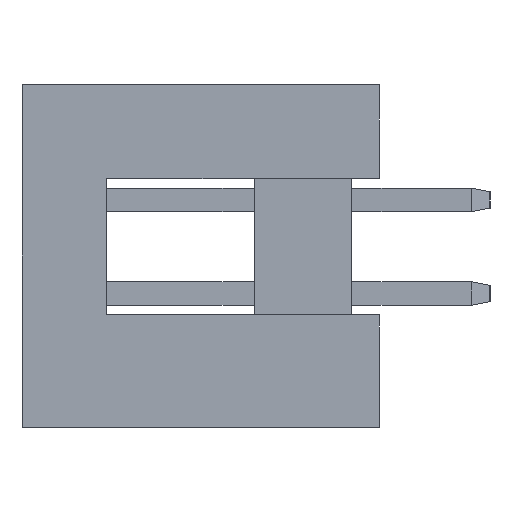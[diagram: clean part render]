
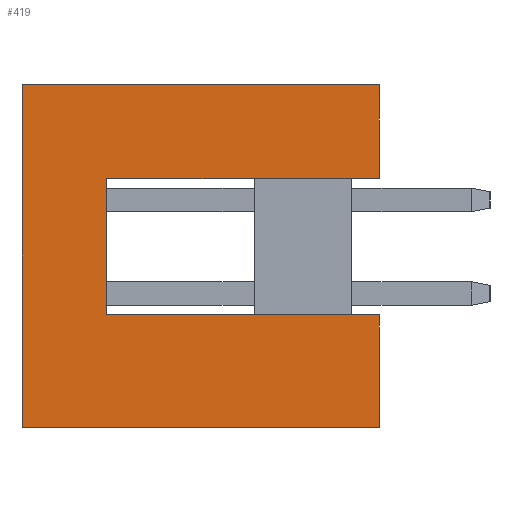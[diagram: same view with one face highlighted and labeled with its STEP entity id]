
A CAD part, left-side view. The second image highlights one B-rep face of the part: STEP entity #419.
In plain terms, the highlighted planar face has unit normal (-1, 0, 0).
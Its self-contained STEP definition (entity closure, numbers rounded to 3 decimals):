
#419 = ADVANCED_FACE ( 'NONE', ( #424 ), #8404, .F. ) ;
#424 = FACE_OUTER_BOUND ( 'NONE', #2921, .T. ) ;
#1590 = EDGE_CURVE ( 'NONE', #15055, #13935, #8357, .T. ) ;
#1724 = CARTESIAN_POINT ( 'NONE',  ( -24.677, 4.349, 4.65 ) ) ;
#2199 = ORIENTED_EDGE ( 'NONE', *, *, #11862, .T. ) ;
#2737 = CARTESIAN_POINT ( 'NONE',  ( -24.677, 4.349, -4.65 ) ) ;
#2921 = EDGE_LOOP ( 'NONE', ( #14622, #8285, #15987, #5853, #11133, #2199, #16639, #9496 ) ) ;
#2935 = CARTESIAN_POINT ( 'NONE',  ( -24.677, 2.049, -1.6 ) ) ;
#3325 = VECTOR ( 'NONE', #5848, 1000. ) ;
#4057 = EDGE_CURVE ( 'NONE', #12573, #15055, #5374, .T. ) ;
#4482 = CARTESIAN_POINT ( 'NONE',  ( -24.677, 2.049, -1.6 ) ) ;
#4726 = LINE ( 'NONE', #4482, #3325 ) ;
#5305 = VECTOR ( 'NONE', #16164, 1000. ) ;
#5374 = LINE ( 'NONE', #9408, #9096 ) ;
#5764 = CARTESIAN_POINT ( 'NONE',  ( -24.677, -5.351, -4.65 ) ) ;
#5783 = VECTOR ( 'NONE', #10994, 1000. ) ;
#5848 = DIRECTION ( 'NONE',  ( 0., -1., 0. ) ) ;
#5853 = ORIENTED_EDGE ( 'NONE', *, *, #8813, .F. ) ;
#6240 = VECTOR ( 'NONE', #16429, 1000. ) ;
#6844 = VERTEX_POINT ( 'NONE', #2737 ) ;
#6961 = CARTESIAN_POINT ( 'NONE',  ( -24.677, 4.349, 4.65 ) ) ;
#7294 = CARTESIAN_POINT ( 'NONE',  ( -24.677, -5.351, 4.65 ) ) ;
#7800 = CARTESIAN_POINT ( 'NONE',  ( -24.677, 4.349, 4.65 ) ) ;
#7810 = CARTESIAN_POINT ( 'NONE',  ( -24.677, -5.351, 2.1 ) ) ;
#7847 = CARTESIAN_POINT ( 'NONE',  ( -24.677, 2.049, 2.1 ) ) ;
#8249 = LINE ( 'NONE', #10831, #5305 ) ;
#8285 = ORIENTED_EDGE ( 'NONE', *, *, #1590, .F. ) ;
#8357 = LINE ( 'NONE', #15145, #6240 ) ;
#8404 = PLANE ( 'NONE',  #15869 ) ;
#8594 = EDGE_CURVE ( 'NONE', #13935, #11968, #10151, .T. ) ;
#8813 = EDGE_CURVE ( 'NONE', #16301, #12573, #15121, .T. ) ;
#9096 = VECTOR ( 'NONE', #14661, 1000. ) ;
#9408 = CARTESIAN_POINT ( 'NONE',  ( -24.677, -5.351, 4.65 ) ) ;
#9496 = ORIENTED_EDGE ( 'NONE', *, *, #13084, .F. ) ;
#9674 = VERTEX_POINT ( 'NONE', #11326 ) ;
#10139 = LINE ( 'NONE', #7294, #12387 ) ;
#10151 = LINE ( 'NONE', #7847, #15105 ) ;
#10291 = VERTEX_POINT ( 'NONE', #5764 ) ;
#10831 = CARTESIAN_POINT ( 'NONE',  ( -24.677, 4.349, -4.65 ) ) ;
#10876 = CARTESIAN_POINT ( 'NONE',  ( -24.677, 2.049, 2.1 ) ) ;
#10991 = DIRECTION ( 'NONE',  ( 0., 0., -1. ) ) ;
#10994 = DIRECTION ( 'NONE',  ( 0., -1., 0. ) ) ;
#11133 = ORIENTED_EDGE ( 'NONE', *, *, #16772, .T. ) ;
#11326 = CARTESIAN_POINT ( 'NONE',  ( -24.677, -5.351, -1.6 ) ) ;
#11357 = DIRECTION ( 'NONE',  ( 0., 0., -1. ) ) ;
#11598 = VECTOR ( 'NONE', #10991, 1000. ) ;
#11862 = EDGE_CURVE ( 'NONE', #6844, #10291, #8249, .T. ) ;
#11968 = VERTEX_POINT ( 'NONE', #2935 ) ;
#12387 = VECTOR ( 'NONE', #14098, 1000. ) ;
#12573 = VERTEX_POINT ( 'NONE', #12777 ) ;
#12777 = CARTESIAN_POINT ( 'NONE',  ( -24.677, -5.351, 4.65 ) ) ;
#13084 = EDGE_CURVE ( 'NONE', #11968, #9674, #4726, .T. ) ;
#13248 = EDGE_CURVE ( 'NONE', #9674, #10291, #10139, .T. ) ;
#13935 = VERTEX_POINT ( 'NONE', #10876 ) ;
#14098 = DIRECTION ( 'NONE',  ( 0., 0., -1. ) ) ;
#14622 = ORIENTED_EDGE ( 'NONE', *, *, #8594, .F. ) ;
#14661 = DIRECTION ( 'NONE',  ( 0., 0., -1. ) ) ;
#14880 = LINE ( 'NONE', #16089, #11598 ) ;
#15055 = VERTEX_POINT ( 'NONE', #7810 ) ;
#15105 = VECTOR ( 'NONE', #11357, 1000. ) ;
#15121 = LINE ( 'NONE', #1724, #5783 ) ;
#15145 = CARTESIAN_POINT ( 'NONE',  ( -24.677, -5.351, 2.1 ) ) ;
#15869 = AXIS2_PLACEMENT_3D ( 'NONE', #6961, #16240, #16159 ) ;
#15987 = ORIENTED_EDGE ( 'NONE', *, *, #4057, .F. ) ;
#16089 = CARTESIAN_POINT ( 'NONE',  ( -24.677, 4.349, 4.65 ) ) ;
#16159 = DIRECTION ( 'NONE',  ( 0., 1., 0. ) ) ;
#16164 = DIRECTION ( 'NONE',  ( 0., -1., 0. ) ) ;
#16240 = DIRECTION ( 'NONE',  ( 1., 0., 0. ) ) ;
#16301 = VERTEX_POINT ( 'NONE', #7800 ) ;
#16429 = DIRECTION ( 'NONE',  ( 0., 1., 0. ) ) ;
#16639 = ORIENTED_EDGE ( 'NONE', *, *, #13248, .F. ) ;
#16772 = EDGE_CURVE ( 'NONE', #16301, #6844, #14880, .T. ) ;
